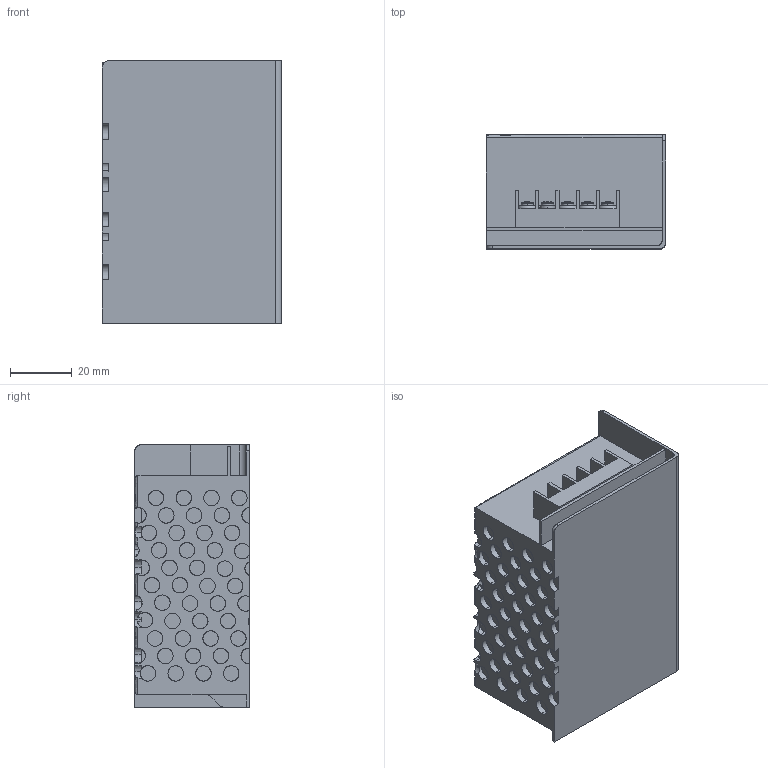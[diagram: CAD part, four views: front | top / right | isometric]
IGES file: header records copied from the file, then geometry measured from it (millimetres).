
Start section: SolidWorks IGES file using analytic representation for surfaces
Global section: file name: C:\Users\chris\Desktop\Nova pasta (2)\MS-25-12.IGS; native system: SolidWorks 2019; preprocessor: SolidWorks 2019; author: chris; date: 200226.110231; units: millimetre
Bounding box: 58 x 37 x 85 mm (x, y, z)
Surface area: 25999.8 mm2 (no closed solid volume)
Topology: 0 solids, 0 shells, 580 faces, 10514 edges, 10514 vertices
Faces by surface type: revolution 306, bspline 274
